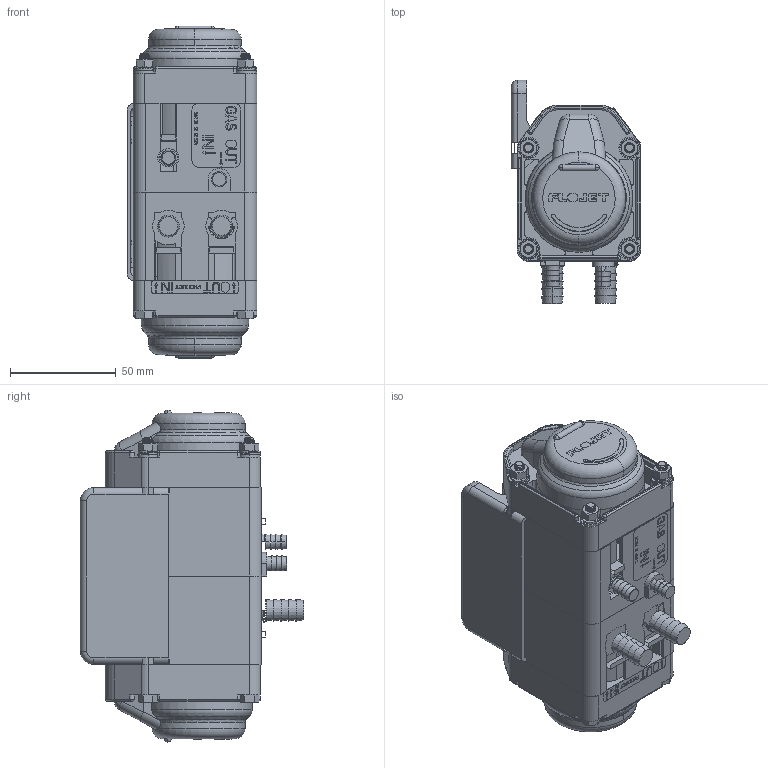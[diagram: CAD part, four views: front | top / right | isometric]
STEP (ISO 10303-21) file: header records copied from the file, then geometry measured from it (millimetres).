
FILE_DESCRIPTION((''),'2;1');
FILE_NAME('H5100020','2022-03-08T11:15:47',('rvaldez'),(''),'CREO PARAMETRIC BY PTC INC, 2019444','CREO PARAMETRIC BY PTC INC, 2019444','');
FILE_SCHEMA(('CONFIG_CONTROL_DESIGN'));
Length unit declared in the file: inch
Products named in the file (1): H5100020
Bounding box: 61.21 x 105.49 x 156.84 mm (x, y, z)
Surface area: 73868.2 mm2 (no closed solid volume)
Topology: 0 solids, 330 shells, 818 faces, 3467 edges, 2894 vertices
Faces by surface type: cylinder 395, plane 244, cone 77, bspline 47, torus 35, sphere 20
Entity records: 49860 total; most frequent: CARTESIAN_POINT 24126, DIRECTION 4775, ORIENTED_EDGE 4478, EDGE_CURVE 3447, VERTEX_POINT 2892, VECTOR 1939, LINE 1939, AXIS2_PLACEMENT_3D 1418
